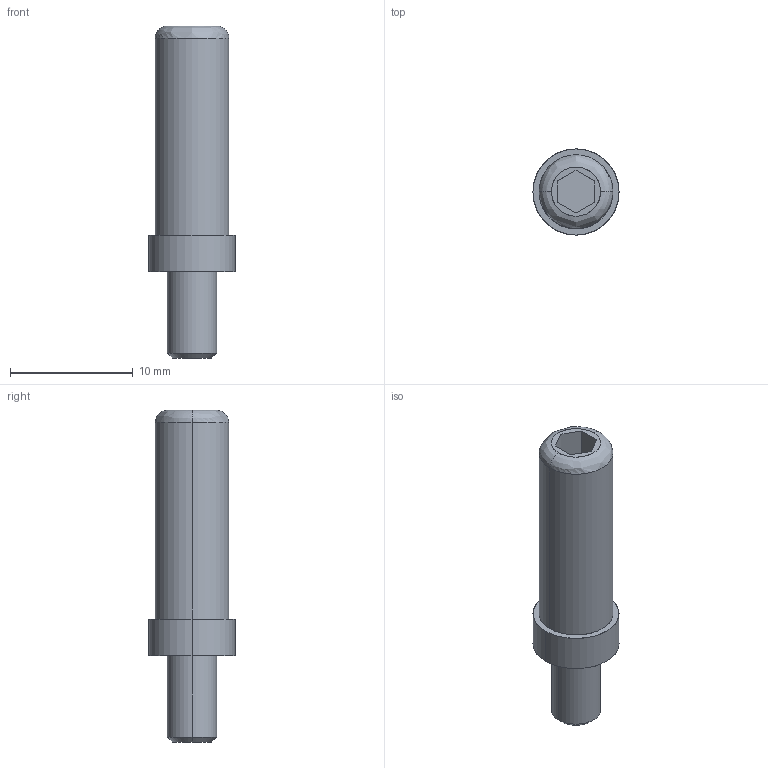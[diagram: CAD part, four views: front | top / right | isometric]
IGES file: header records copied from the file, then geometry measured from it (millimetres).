
Global section: file name: E:\UnigraphicsGraphicData\MISUMI_PRESS-PARTS\IGES\3d_sga7-20_00783_r00.igs; native system: NX V5.0; preprocessor: UGS NX IGES V5.0; author: MISUMI; date: 20110105.162530; units: millimetre
Bounding box: 7 x 7 x 27 mm (x, y, z)
Surface area: 571 mm2 (no closed solid volume)
Topology: 0 solids, 0 shells, 21 faces, 124 edges, 124 vertices
Faces by surface type: bspline 21
